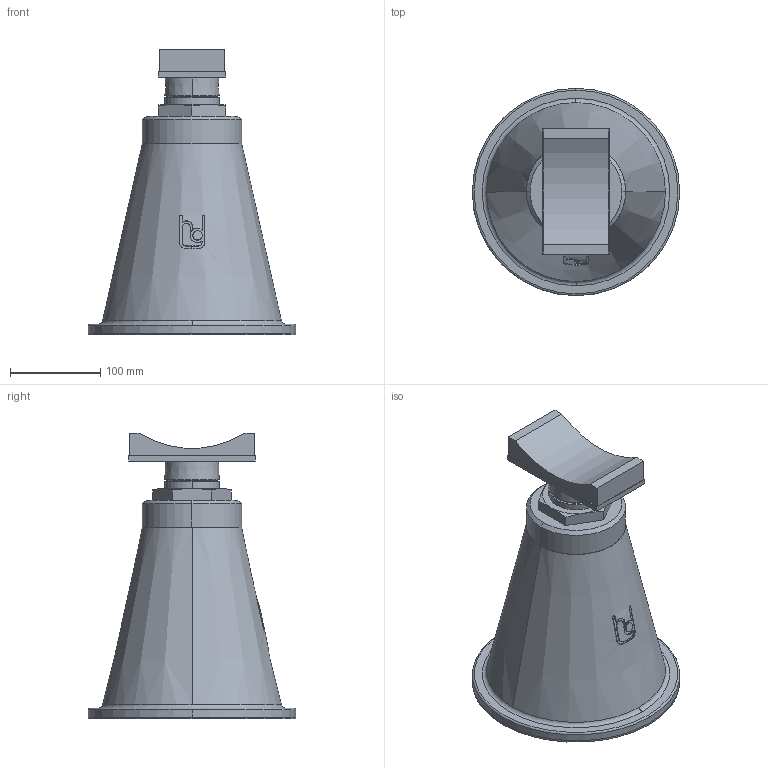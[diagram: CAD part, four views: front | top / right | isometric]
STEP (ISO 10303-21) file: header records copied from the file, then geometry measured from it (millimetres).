
FILE_DESCRIPTION(('STEP AP214'),'1');
FILE_NAME('RSRFA_DN200.stp','2018-06-25T09:52:18',(' '),(' '),'Spatial InterOp 3D',' ',' ');
FILE_SCHEMA(('automotive_design'));
Length unit declared in the file: millimetre
Products named in the file (6): 1; 2; 3; 4; 5; 6
Bounding box: 230 x 230 x 317 mm (x, y, z)
Volume: 5691367.7 mm3; surface area: 395132.8 mm2
Topology: 6 solids, 7 shells, 118 faces, 280 edges, 180 vertices
Faces by surface type: plane 51, cylinder 34, cone 25, torus 8
Entity records: 4854 total; most frequent: CARTESIAN_POINT 1042, DIRECTION 592, ORIENTED_EDGE 560, EDGE_CURVE 280, AXIS2_PLACEMENT_3D 230, VERTEX_POINT 180, LINE 132, VECTOR 132
